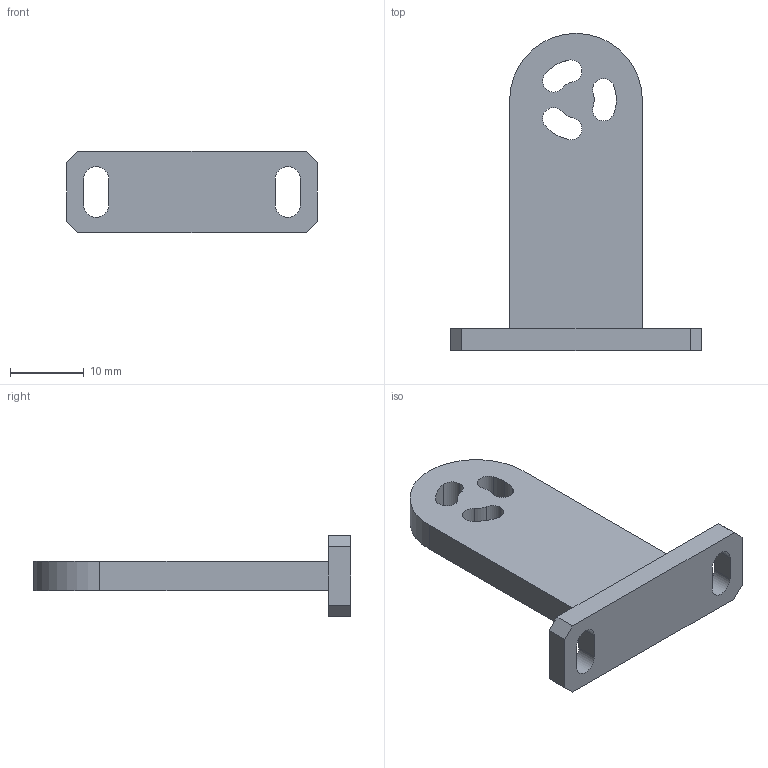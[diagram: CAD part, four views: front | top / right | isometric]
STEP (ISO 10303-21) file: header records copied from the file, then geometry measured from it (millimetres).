
FILE_DESCRIPTION (( 'STEP AP214' ), '1' );
FILE_NAME ('毀扞噩假蚾釱.STEP', '2026-04-21T03:39:16', ( '' ), ( '' ), 'SwSTEP 2.0', 'SolidWorks 2024', '' );
FILE_SCHEMA (( 'AUTOMOTIVE_DESIGN' ));
Length unit declared in the file: millimetre
Products named in the file (1): 反射镜安装座
Bounding box: 34 x 43 x 11 mm (x, y, z)
Volume: 3539 mm3; surface area: 2767.5 mm2
Topology: 1 solids, 1 shells, 39 faces, 108 edges, 72 vertices
Faces by surface type: cylinder 21, plane 18
Entity records: 1307 total; most frequent: DIRECTION 230, CARTESIAN_POINT 220, ORIENTED_EDGE 216, EDGE_CURVE 108, AXIS2_PLACEMENT_3D 82, VERTEX_POINT 72, VECTOR 66, LINE 66
